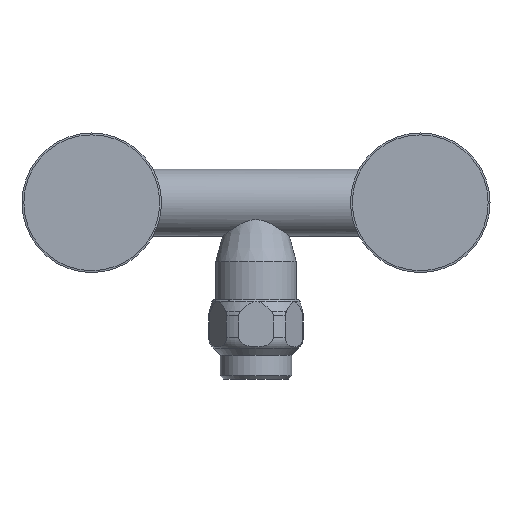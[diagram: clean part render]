
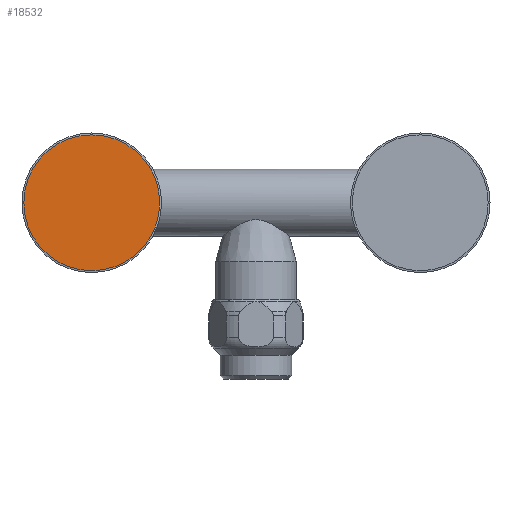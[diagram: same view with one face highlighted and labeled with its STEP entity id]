
A CAD part, front view. The second image highlights one B-rep face of the part: STEP entity #18532.
In plain terms, the highlighted planar face has unit normal (0, -1, 0).
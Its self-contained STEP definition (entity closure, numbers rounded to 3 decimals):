
#17631=CARTESIAN_POINT('',(-76.5,-44.7,0.));
#17632=DIRECTION('',(0.,-1.,0.));
#17633=DIRECTION('',(1.,0.,0.));
#17634=AXIS2_PLACEMENT_3D('',#17631,#17632,#17633);
#17644=CARTESIAN_POINT('',(-76.5,-44.7,0.));
#17645=DIRECTION('',(0.,1.,0.));
#17646=DIRECTION('',(1.,0.,0.));
#17647=AXIS2_PLACEMENT_3D('',#17644,#17645,#17646);
#17794=CARTESIAN_POINT('',(-44.851,-44.7,0.));
#17796=VERTEX_POINT('',#17794);
#17798=CARTESIAN_POINT('',(-108.149,-44.7,0.));
#17800=VERTEX_POINT('',#17798);
#18523=CARTESIAN_POINT('',(-76.5,-44.7,0.));
#18524=DIRECTION('',(0.,-1.,0.));
#18525=DIRECTION('',(-1.,0.,0.));
#18526=AXIS2_PLACEMENT_3D('',#18523,#18524,#18525);
#18527=PLANE('',#18526);
#18528=ORIENTED_EDGE('',*,*,#18478,.F.);
#18529=ORIENTED_EDGE('',*,*,#18506,.T.);
#18530=EDGE_LOOP('',(#18528,#18529));
#18531=FACE_OUTER_BOUND('',#18530,.F.);
#17635=CIRCLE('',#17634,31.649);
#17648=CIRCLE('',#17647,31.649);
#18478=EDGE_CURVE('',#17796,#17800,#17635,.T.);
#18506=EDGE_CURVE('',#17796,#17800,#17648,.T.);
#18532=ADVANCED_FACE('',(#18531),#18527,.T.);
